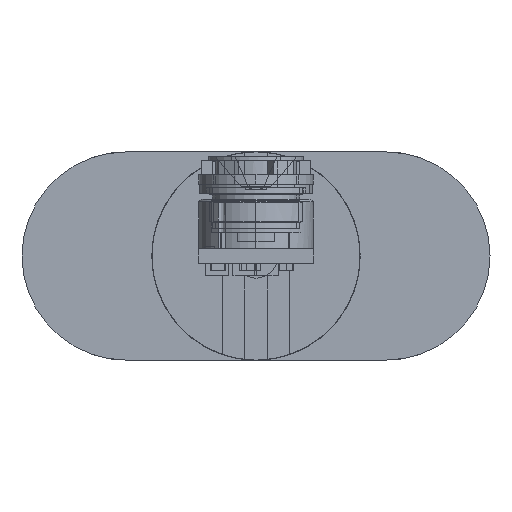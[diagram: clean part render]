
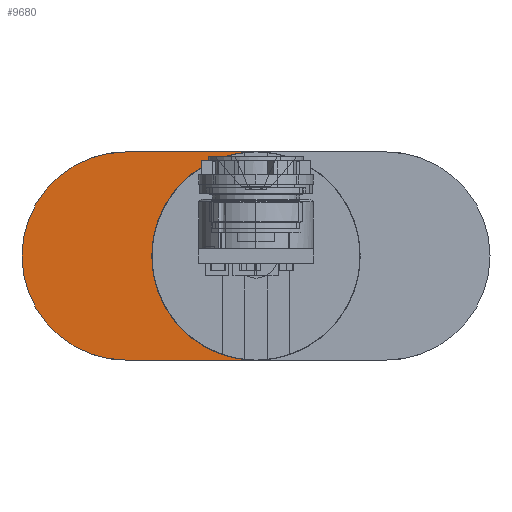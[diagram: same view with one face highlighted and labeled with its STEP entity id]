
A CAD part, left-side view. The second image highlights one B-rep face of the part: STEP entity #9680.
In plain terms, the highlighted planar face has unit normal (-1, 0, 0) as drawn and (0, 0, 1) by its records, which use the part's own axes.
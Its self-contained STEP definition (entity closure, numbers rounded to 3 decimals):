
#172 = DIRECTION ( 'NONE',  ( 0., 0., 1. ) ) ;
#325 = FACE_OUTER_BOUND ( 'NONE', #6357, .T. ) ;
#415 = LINE ( 'NONE', #9263, #7318 ) ;
#458 = DIRECTION ( 'NONE',  ( 0., 0., -1. ) ) ;
#1139 = DIRECTION ( 'NONE',  ( 0., -1., 0. ) ) ;
#1332 = AXIS2_PLACEMENT_3D ( 'NONE', #5199, #11426, #6089 ) ;
#1815 = CARTESIAN_POINT ( 'NONE',  ( 4.45, 5.55, 16.475 ) ) ;
#1907 = CIRCLE ( 'NONE', #2915, 4.45 ) ;
#2332 = VERTEX_POINT ( 'NONE', #1815 ) ;
#2703 = ORIENTED_EDGE ( 'NONE', *, *, #5010, .F. ) ;
#2915 = AXIS2_PLACEMENT_3D ( 'NONE', #5564, #172, #6450 ) ;
#3420 = VERTEX_POINT ( 'NONE', #8344 ) ;
#3512 = ORIENTED_EDGE ( 'NONE', *, *, #9155, .F. ) ;
#3872 = ORIENTED_EDGE ( 'NONE', *, *, #5902, .F. ) ;
#4056 = ORIENTED_EDGE ( 'NONE', *, *, #6363, .T. ) ;
#4100 = LINE ( 'NONE', #8873, #6195 ) ;
#4116 = VERTEX_POINT ( 'NONE', #8354 ) ;
#4765 = CARTESIAN_POINT ( 'NONE',  ( 4.45, 0., 16.475 ) ) ;
#4959 = CARTESIAN_POINT ( 'NONE',  ( 4.45, 10., 16.475 ) ) ;
#4990 = VERTEX_POINT ( 'NONE', #6372 ) ;
#5003 = DIRECTION ( 'NONE',  ( 0., 0., -1. ) ) ;
#5010 = EDGE_CURVE ( 'NONE', #10120, #3420, #1907, .T. ) ;
#5199 = CARTESIAN_POINT ( 'NONE',  ( 0., 5.55, 16.475 ) ) ;
#5564 = CARTESIAN_POINT ( 'NONE',  ( 0., 0., 16.475 ) ) ;
#5816 = CIRCLE ( 'NONE', #1332, 4.45 ) ;
#5902 = EDGE_CURVE ( 'NONE', #4116, #2332, #8313, .T. ) ;
#6089 = DIRECTION ( 'NONE',  ( 0., 1., 0. ) ) ;
#6195 = VECTOR ( 'NONE', #9770, 1000. ) ;
#6357 = EDGE_LOOP ( 'NONE', ( #2703, #9844, #3872, #3512, #4056 ) ) ;
#6363 = EDGE_CURVE ( 'NONE', #4990, #3420, #4100, .T. ) ;
#6372 = CARTESIAN_POINT ( 'NONE',  ( -4.45, 5.55, 16.475 ) ) ;
#6450 = DIRECTION ( 'NONE',  ( 1., 0., 0. ) ) ;
#6565 = EDGE_CURVE ( 'NONE', #2332, #10120, #415, .T. ) ;
#6742 = DIRECTION ( 'NONE',  ( 0., 1., 0. ) ) ;
#7318 = VECTOR ( 'NONE', #1139, 1000. ) ;
#8313 = CIRCLE ( 'NONE', #10621, 4.45 ) ;
#8344 = CARTESIAN_POINT ( 'NONE',  ( -4.45, 0., 16.475 ) ) ;
#8354 = CARTESIAN_POINT ( 'NONE',  ( 0., 10., 16.475 ) ) ;
#8873 = CARTESIAN_POINT ( 'NONE',  ( -4.45, 10., 16.475 ) ) ;
#9155 = EDGE_CURVE ( 'NONE', #4990, #4116, #5816, .T. ) ;
#9263 = CARTESIAN_POINT ( 'NONE',  ( 4.45, 10., 16.475 ) ) ;
#9680 = ADVANCED_FACE ( 'NONE', ( #325 ), #10301, .F. ) ;
#9770 = DIRECTION ( 'NONE',  ( 0., -1., 0. ) ) ;
#9844 = ORIENTED_EDGE ( 'NONE', *, *, #6565, .F. ) ;
#10120 = VERTEX_POINT ( 'NONE', #4765 ) ;
#10133 = AXIS2_PLACEMENT_3D ( 'NONE', #4959, #458, #6742 ) ;
#10301 = PLANE ( 'NONE',  #10133 ) ;
#10343 = CARTESIAN_POINT ( 'NONE',  ( 0., 5.55, 16.475 ) ) ;
#10621 = AXIS2_PLACEMENT_3D ( 'NONE', #10343, #5003, #11223 ) ;
#11223 = DIRECTION ( 'NONE',  ( 0., 1., 0. ) ) ;
#11426 = DIRECTION ( 'NONE',  ( 0., 0., -1. ) ) ;
